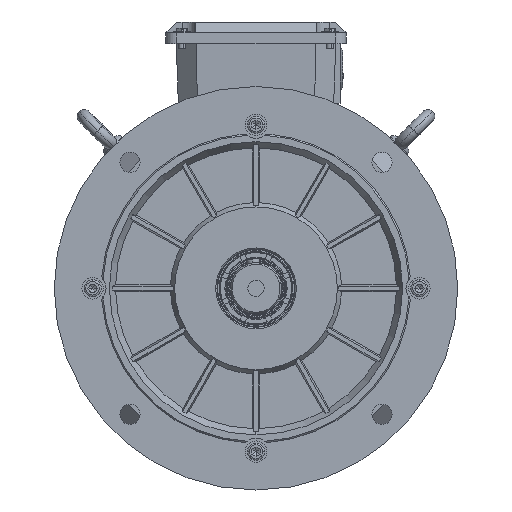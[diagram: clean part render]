
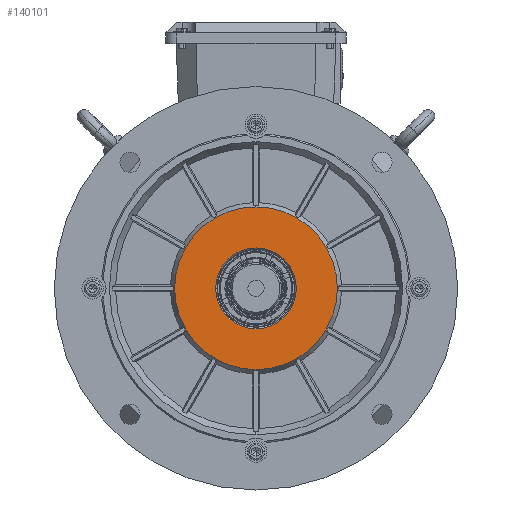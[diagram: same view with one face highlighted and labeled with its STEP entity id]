
A CAD part, left-side view. The second image highlights one B-rep face of the part: STEP entity #140101.
In plain terms, the highlighted planar face has unit normal (-1, 0, 0).
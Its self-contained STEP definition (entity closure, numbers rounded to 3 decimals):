
#18398 = CARTESIAN_POINT ( 'NONE',  ( -133.99, -2.924, 58.512 ) ) ;
#18747 = VERTEX_POINT ( 'NONE', #18398 ) ;
#18900 = PLANE ( 'NONE',  #61867 ) ;
#18990 = DIRECTION ( 'NONE',  ( 0., 0., 1. ) ) ;
#41095 = AXIS2_PLACEMENT_3D ( 'NONE', #111044, #121831, #18990 ) ;
#43388 = DIRECTION ( 'NONE',  ( 1., 0., 0. ) ) ;
#43579 = CIRCLE ( 'NONE', #41095, 60.5 ) ;
#43632 = CARTESIAN_POINT ( 'NONE',  ( -133.99, -2.924, -31.988 ) ) ;
#46632 = CARTESIAN_POINT ( 'NONE',  ( -133.99, -2.924, -1.988 ) ) ;
#51257 = CARTESIAN_POINT ( 'NONE',  ( -133.99, -2.924, 28.012 ) ) ;
#52890 = CIRCLE ( 'NONE', #128625, 30. ) ;
#53506 = AXIS2_PLACEMENT_3D ( 'NONE', #46632, #119537, #106433 ) ;
#55644 = FACE_BOUND ( 'NONE', #88221, .T. ) ;
#61164 = ORIENTED_EDGE ( 'NONE', *, *, #100142, .F. ) ;
#61867 = AXIS2_PLACEMENT_3D ( 'NONE', #77903, #43388, #136317 ) ;
#70967 = ORIENTED_EDGE ( 'NONE', *, *, #79126, .F. ) ;
#76667 = CARTESIAN_POINT ( 'NONE',  ( -133.99, -2.924, -62.488 ) ) ;
#77903 = CARTESIAN_POINT ( 'NONE',  ( -133.99, 57.576, -1.988 ) ) ;
#79126 = EDGE_CURVE ( 'NONE', #121019, #97368, #52890, .T. ) ;
#81442 = DIRECTION ( 'NONE',  ( -1., 0., 0. ) ) ;
#84857 = ORIENTED_EDGE ( 'NONE', *, *, #87544, .T. ) ;
#87544 = EDGE_CURVE ( 'NONE', #92608, #18747, #43579, .T. ) ;
#88221 = EDGE_LOOP ( 'NONE', ( #61164, #70967 ) ) ;
#89411 = FACE_OUTER_BOUND ( 'NONE', #102842, .T. ) ;
#90365 = EDGE_CURVE ( 'NONE', #18747, #92608, #146758, .T. ) ;
#92608 = VERTEX_POINT ( 'NONE', #76667 ) ;
#95127 = DIRECTION ( 'NONE',  ( -1., 0., 0. ) ) ;
#97368 = VERTEX_POINT ( 'NONE', #51257 ) ;
#100142 = EDGE_CURVE ( 'NONE', #97368, #121019, #146089, .T. ) ;
#102842 = EDGE_LOOP ( 'NONE', ( #84857, #112154 ) ) ;
#104474 = CARTESIAN_POINT ( 'NONE',  ( -133.99, -2.924, -1.988 ) ) ;
#106433 = DIRECTION ( 'NONE',  ( 0., 0., 1. ) ) ;
#111044 = CARTESIAN_POINT ( 'NONE',  ( -133.99, -2.924, -1.988 ) ) ;
#111607 = AXIS2_PLACEMENT_3D ( 'NONE', #104474, #81442, #151407 ) ;
#112154 = ORIENTED_EDGE ( 'NONE', *, *, #90365, .T. ) ;
#119537 = DIRECTION ( 'NONE',  ( -1., 0., 0. ) ) ;
#121019 = VERTEX_POINT ( 'NONE', #43632 ) ;
#121831 = DIRECTION ( 'NONE',  ( -1., 0., 0. ) ) ;
#128182 = DIRECTION ( 'NONE',  ( 0., 0., 1. ) ) ;
#128625 = AXIS2_PLACEMENT_3D ( 'NONE', #139745, #95127, #128182 ) ;
#136317 = DIRECTION ( 'NONE',  ( 0., 1., 0. ) ) ;
#139745 = CARTESIAN_POINT ( 'NONE',  ( -133.99, -2.924, -1.988 ) ) ;
#140101 = ADVANCED_FACE ( 'NONE', ( #89411, #55644 ), #18900, .F. ) ;
#146089 = CIRCLE ( 'NONE', #111607, 30. ) ;
#146758 = CIRCLE ( 'NONE', #53506, 60.5 ) ;
#151407 = DIRECTION ( 'NONE',  ( 0., 0., 1. ) ) ;
